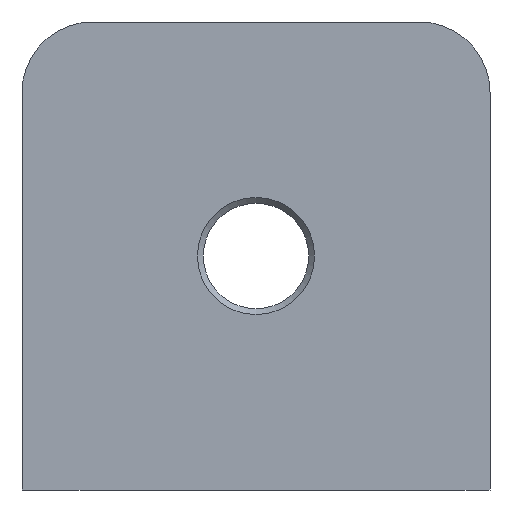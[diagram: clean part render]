
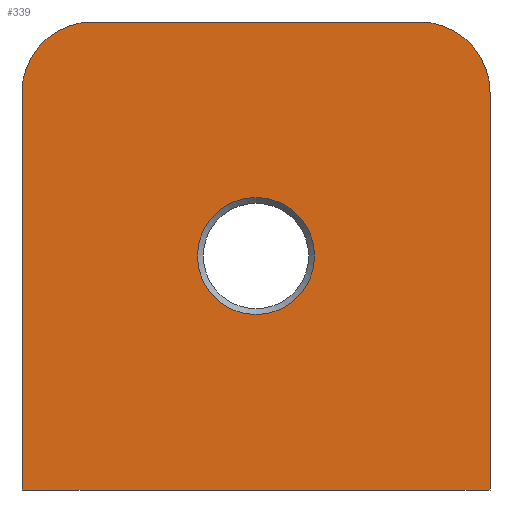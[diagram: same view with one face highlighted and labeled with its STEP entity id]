
A CAD part, front view. The second image highlights one B-rep face of the part: STEP entity #339.
In plain terms, the highlighted planar face has unit normal (0, -1, 0).
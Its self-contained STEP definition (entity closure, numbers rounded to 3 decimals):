
#33=LINE('',#515,#63);
#36=LINE('',#523,#66);
#37=LINE('',#529,#67);
#38=LINE('',#531,#68);
#63=VECTOR('',#412,1000.);
#66=VECTOR('',#419,1000.);
#67=VECTOR('',#424,1000.);
#68=VECTOR('',#425,1000.);
#100=ORIENTED_EDGE('',*,*,#191,.T.);
#101=ORIENTED_EDGE('',*,*,#192,.F.);
#102=ORIENTED_EDGE('',*,*,#193,.F.);
#103=ORIENTED_EDGE('',*,*,#188,.T.);
#104=ORIENTED_EDGE('',*,*,#194,.F.);
#105=ORIENTED_EDGE('',*,*,#195,.T.);
#106=ORIENTED_EDGE('',*,*,#196,.F.);
#188=EDGE_CURVE('',#234,#235,#33,.T.);
#191=EDGE_CURVE('',#236,#236,#262,.T.);
#192=EDGE_CURVE('',#237,#238,#36,.T.);
#193=EDGE_CURVE('',#234,#237,#263,.T.);
#194=EDGE_CURVE('',#239,#235,#264,.T.);
#195=EDGE_CURVE('',#239,#240,#37,.T.);
#196=EDGE_CURVE('',#238,#240,#38,.T.);
#234=VERTEX_POINT('',#516);
#235=VERTEX_POINT('',#517);
#236=VERTEX_POINT('',#522);
#237=VERTEX_POINT('',#524);
#238=VERTEX_POINT('',#525);
#239=VERTEX_POINT('',#528);
#240=VERTEX_POINT('',#530);
#262=CIRCLE('',#367,5.);
#263=CIRCLE('',#368,6.);
#264=CIRCLE('',#369,6.);
#278=EDGE_LOOP('',(#100));
#279=EDGE_LOOP('',(#101,#102,#103,#104,#105,#106));
#304=FACE_BOUND('',#278,.T.);
#305=FACE_BOUND('',#279,.T.);
#329=PLANE('',#366);
#339=ADVANCED_FACE('',(#304,#305),#329,.F.);
#366=AXIS2_PLACEMENT_3D('',#520,#415,#416);
#367=AXIS2_PLACEMENT_3D('',#521,#417,#418);
#368=AXIS2_PLACEMENT_3D('',#526,#420,#421);
#369=AXIS2_PLACEMENT_3D('',#527,#422,#423);
#412=DIRECTION('',(-1.,0.,0.));
#415=DIRECTION('',(0.,1.,0.));
#416=DIRECTION('',(0.,0.,1.));
#417=DIRECTION('',(0.,1.,0.));
#418=DIRECTION('',(0.,0.,1.));
#419=DIRECTION('',(0.,0.,-1.));
#420=DIRECTION('',(0.,1.,0.));
#421=DIRECTION('',(1.,0.,0.));
#422=DIRECTION('',(0.,1.,0.));
#423=DIRECTION('',(1.,0.,0.));
#424=DIRECTION('',(0.,0.,-1.));
#425=DIRECTION('',(-1.,0.,0.));
#515=CARTESIAN_POINT('',(40.,0.,40.));
#516=CARTESIAN_POINT('',(34.,0.,40.));
#517=CARTESIAN_POINT('',(6.,0.,40.));
#520=CARTESIAN_POINT('',(40.,0.,40.));
#521=CARTESIAN_POINT('',(20.,0.,20.));
#522=CARTESIAN_POINT('',(20.,0.,25.));
#523=CARTESIAN_POINT('',(40.,0.,40.));
#524=CARTESIAN_POINT('',(40.,0.,34.));
#525=CARTESIAN_POINT('',(40.,0.,0.));
#526=CARTESIAN_POINT('',(34.,0.,34.));
#527=CARTESIAN_POINT('',(6.,0.,34.));
#528=CARTESIAN_POINT('',(0.,0.,34.));
#529=CARTESIAN_POINT('',(0.,0.,40.));
#530=CARTESIAN_POINT('',(0.,0.,0.));
#531=CARTESIAN_POINT('',(40.,0.,0.));
